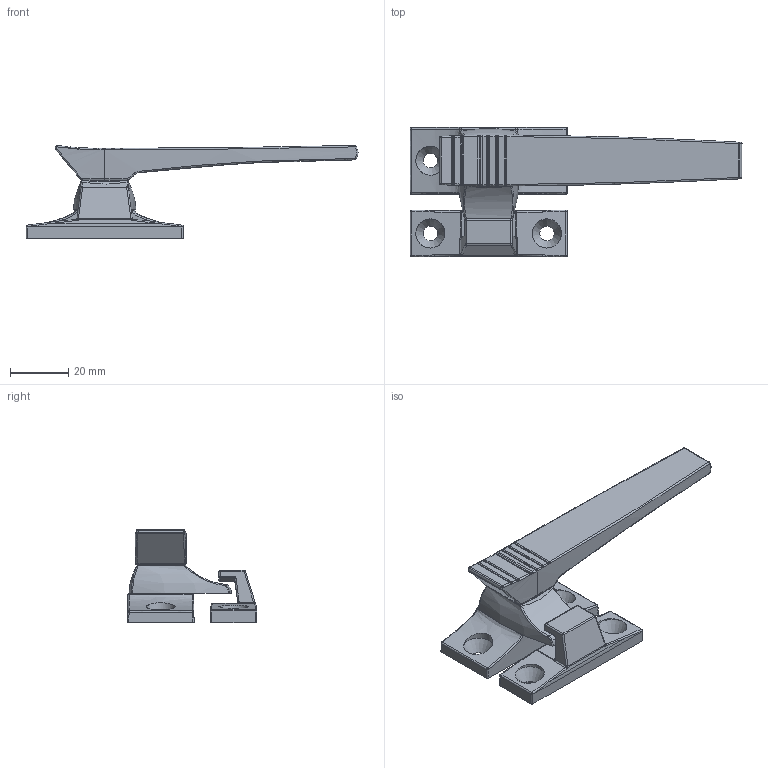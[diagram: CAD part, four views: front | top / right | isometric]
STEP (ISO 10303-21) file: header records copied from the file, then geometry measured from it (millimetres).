
FILE_DESCRIPTION(/* description */ (''),/* implementation_level */ '2;1');
FILE_NAME(/* name */ '\\NAS\db20\D-1118-3\DR_D-1118-3.stp',/* time_stamp */ '2017-07-26T08:57:59+09:00',/* author */ ('user'),/* organization */ (''),/* preprocessor_version */ 'ST-DEVELOPER v15.6',/* originating_system */ 'Autodesk Inventor 2015',/* authorisation */ '');
FILE_SCHEMA (('AUTOMOTIVE_DESIGN { 1 0 10303 214 3 1 1 }'));
Length unit declared in the file: millimetre
Products named in the file (8): DR_D-1118-3_BASE; DR_D-1118-3_BRACKET; DR_D-1118-3_CONNECTOR; DR_D-1118-3_LR; DR_D-1118-3_PULL; DR_D-1118-3_SCREW; DR_D-1118-3_WASHER; DR_D-1118-3
Bounding box: 114 x 44.5 x 31.97 mm (x, y, z)
Volume: 30229.2 mm3; surface area: 16916 mm2
Topology: 7 solids, 7 shells, 369 faces, 876 edges, 510 vertices
Faces by surface type: bspline 126, cylinder 119, plane 70, sphere 34, torus 12, cone 8
Full cylindrical faces by diameter (mm): 4.917 x1, 5 x4, 6 x2, 6.8 x1, 10 x5, 10.5 x2, 10.9 x1, 14.5 x2, 15 x3
Entity records: 13746 total; most frequent: CARTESIAN_POINT 5948, ORIENTED_EDGE 1632, DIRECTION 1433, EDGE_CURVE 816, AXIS2_PLACEMENT_3D 606, VERTEX_POINT 499, EDGE_LOOP 423, FACE_OUTER_BOUND 369
